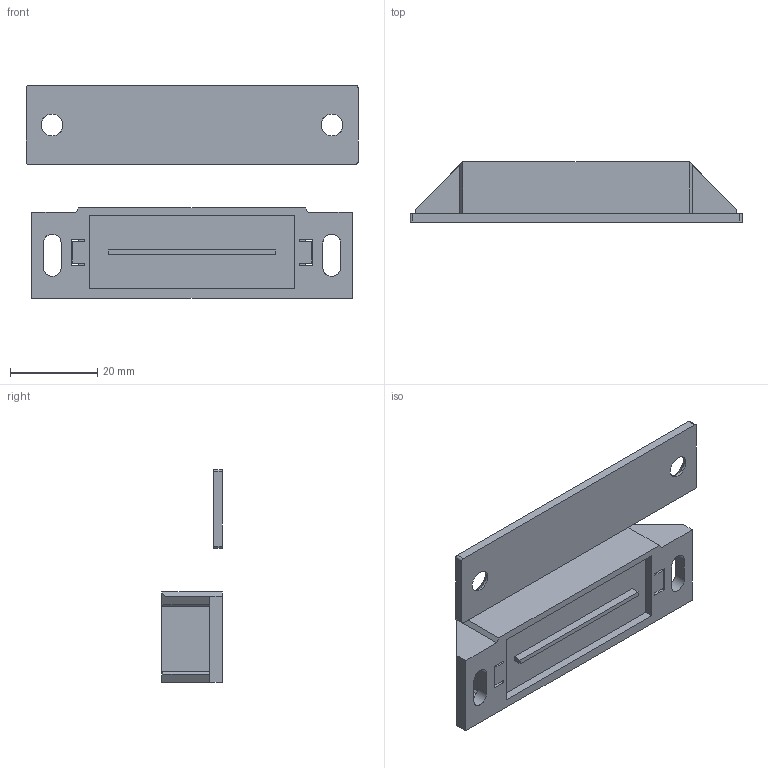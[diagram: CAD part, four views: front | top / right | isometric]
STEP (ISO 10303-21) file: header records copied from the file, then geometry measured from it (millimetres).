
FILE_DESCRIPTION(/* description */ (''),/* implementation_level */ '2;1');
FILE_NAME(/* name */ 'C-65-1-3D',/* time_stamp */ '2023-05-05T06:47:53+08:00',/* author */ (''),/* organization */ (''),/* preprocessor_version */ 'ST-DEVELOPER v16.5',/* originating_system */ 'Rhino 7.28',/* authorisation */ '');
FILE_SCHEMA (('CONFIG_CONTROL_DESIGN'));
Length unit declared in the file: millimetre
Products named in the file (2): Document; 圖塊 01
Assembly tree (1 placements, depth 2):
  Document
    圖塊 01
Bounding box: 76 x 13.9 x 48.7 mm (x, y, z)
Volume: 22502.8 mm3; surface area: 13342 mm2
Topology: 4 solids, 4 shells, 151 faces, 422 edges, 276 vertices
Faces by surface type: plane 111, cylinder 36, bspline 4
Entity records: 4439 total; most frequent: CARTESIAN_POINT 1436, ORIENTED_EDGE 844, EDGE_CURVE 422, B_SPLINE_CURVE_WITH_KNOTS 346, VERTEX_POINT 276, EDGE_LOOP 164, DIRECTION 157, AXIS2_PLACEMENT_3D 152
